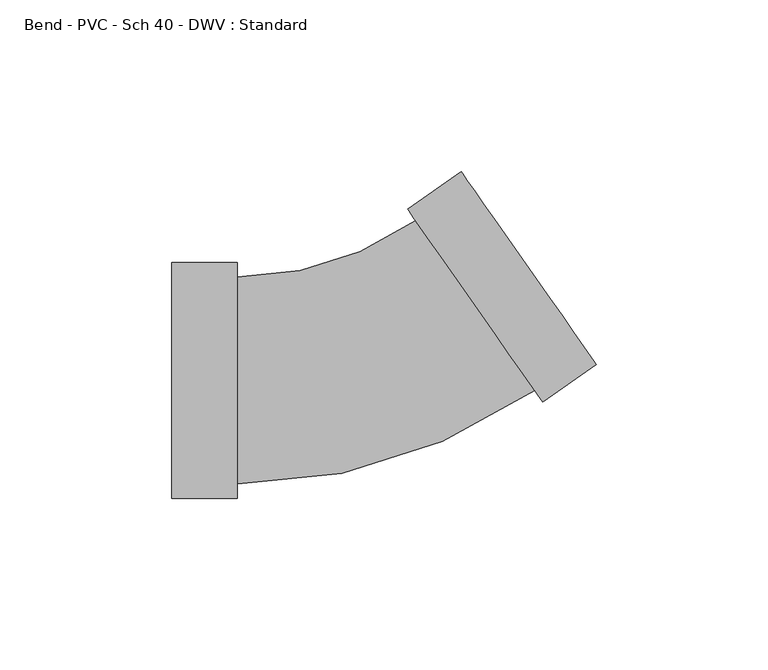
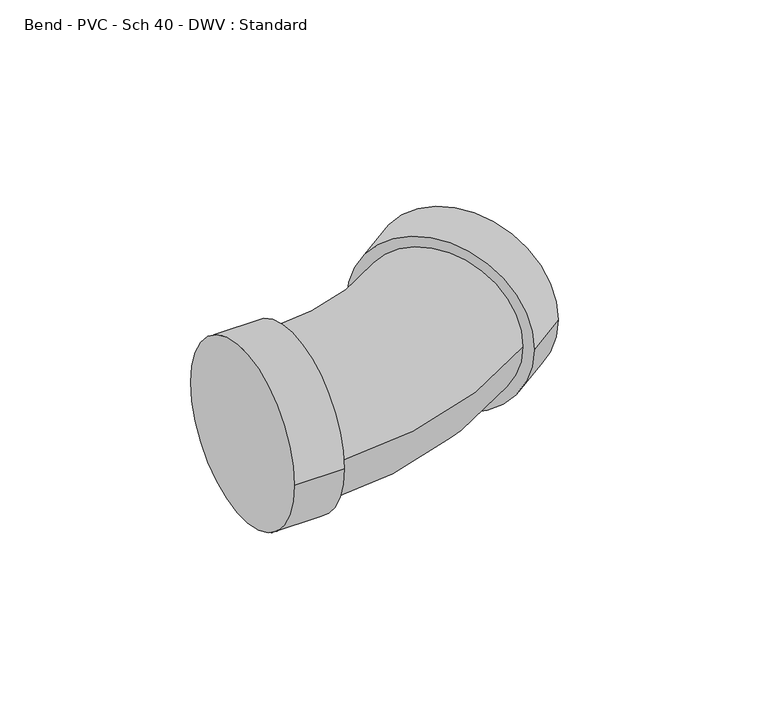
"""IFC4 building model written with IfcOpenShell, lengths in millimetres: pipe fitting geometry, Bend - PVC - Sch 40 - DWV : Standard."""

from ifc_helpers import new_model, si_unit, point, frame, origin, place, context, project, spatial, circle_curve, ellipse_curve, trimmed, source, transform, mapped, element, save
from ifc_brep_helpers import plane_surface, cylinder_surface, revolved_surface, advanced_brep


def bend_pvc_sch_40_dwv_standard_6111f5b4(model_context):
    return source(origin(), model_context, "Body", "AdvancedBrep", [
        advanced_brep(
        [(-57.15, -34.3154, 0.0), (-57.15, 34.3154, 0.0), (-38.1, -34.3154, 0.0), (-38.1, 34.3154, 0.0), (-38.1, -30.1625, 0.0), (-38.1, 30.1625, 0.0), (13.9091936, 46.5609358, 0.0), (48.5101921, -2.8544113, 0.0), (50.8921977, -6.2562678, 0.0), (11.527188, 49.9627923, 0.0), (66.4970442, 4.6703633, 0.0), (27.1320345, 60.8894234, 0.0)],
        [
            (0, 1, circle_curve(frame((-57.15, 0.0, 0.0), z_axis=(-1.0, 0.0, 0.0), x_axis=(0.0, 1.0, 0.0)), 34.3154)),
            (1, 0, circle_curve(frame((-57.15, 0.0, 0.0), z_axis=(-1.0, 0.0, 0.0), x_axis=(0.0, 1.0, 0.0)), 34.3154)),
            (2, 3, circle_curve(frame((-38.1, 0.0, 0.0), z_axis=(1.0, 0.0, 0.0), x_axis=(0.0, 1.0, 0.0)), 34.3154)),
            (3, 2, circle_curve(frame((-38.1, 0.0, 0.0), z_axis=(1.0, 0.0, 0.0), x_axis=(0.0, 1.0, 0.0)), 34.3154)),
            (4, 5, circle_curve(frame((-38.1, 0.0, 0.0), z_axis=(-1.0, 0.0, 0.0), x_axis=(0.0, 1.0, 0.0)), 30.1625)),
            (5, 4, circle_curve(frame((-38.1, 0.0, 0.0), z_axis=(-1.0, 0.0, 0.0), x_axis=(0.0, 1.0, 0.0)), 30.1625)),
            (0, 2),
            (3, 1),
            (6, 5, circle_curve(frame((-38.1, 120.837762, 0.0), z_axis=(0.0, 0.0, -1.0), x_axis=(0.0, -1.0, 0.0)), 90.675262)),
            (4, 7, circle_curve(frame((-38.1, 120.837762, 0.0), z_axis=(0.0, 0.0, 1.0), x_axis=(0.0, -1.0, 0.0)), 151.000262)),
            (7, 6, circle_curve(frame((31.2096929, 21.8532622, 0.0), z_axis=(-0.8191520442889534, -0.5735764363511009, 0.0), x_axis=(-0.5735764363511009, 0.8191520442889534, 0.0)), 30.1625)),
            (6, 7, circle_curve(frame((31.2096929, 21.8532622, 0.0), z_axis=(-0.8191520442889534, -0.5735764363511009, 0.0), x_axis=(-0.5735764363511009, 0.8191520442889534, 0.0)), 30.1625)),
            (8, 9, circle_curve(frame((31.2096929, 21.8532622, 0.0), z_axis=(-0.8191520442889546, -0.5735764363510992, 0.0), x_axis=(-0.5735764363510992, 0.8191520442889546, 0.0)), 34.3154)),
            (9, 8, circle_curve(frame((31.2096929, 21.8532622, 0.0), z_axis=(-0.8191520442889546, -0.5735764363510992, 0.0), x_axis=(-0.5735764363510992, 0.8191520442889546, 0.0)), 34.3154)),
            (10, 11, circle_curve(frame((46.8145393, 32.7798933, 0.0), z_axis=(0.8191520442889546, 0.5735764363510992, 0.0), x_axis=(-0.5735764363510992, 0.8191520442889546, 0.0)), 34.3154)),
            (11, 10, circle_curve(frame((46.8145393, 32.7798933, 0.0), z_axis=(0.8191520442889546, 0.5735764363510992, 0.0), x_axis=(-0.5735764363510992, 0.8191520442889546, 0.0)), 34.3154)),
            (8, 10),
            (11, 9),
        ],
        [
            plane_surface(frame((-57.15, 0.0, 0.0), z_axis=(-1.0, 0.0, 0.0), x_axis=(0.0, 0.0, 1.0))),
            plane_surface(frame((-38.1, 0.0, 0.0), z_axis=(1.0, 0.0, 0.0), x_axis=(0.0, 0.0, 1.0))),
            cylinder_surface(frame((-57.15, 0.0, 0.0), z_axis=(-1.0, 0.0, 0.0), x_axis=(0.0, 1.0, 0.0)), 34.3154),
            revolved_surface(trimmed(ellipse_curve(frame((-38.1, 0.0, 0.0), z_axis=(-1.0, 0.0, 0.0), x_axis=(0.0, 1.0, 0.0)), 30.1625, 30.1625), [point((-38.1, -30.1625, 0.0))], [point((-38.1, 30.1625, 0.0))], True, "CARTESIAN"), (-38.1, 120.837762, 0.0), (0.0, 0.0, 1.0)),
            revolved_surface(trimmed(ellipse_curve(frame((-38.1, 0.0, 0.0), z_axis=(-1.0, 0.0, 0.0), x_axis=(0.0, 1.0, 0.0)), 30.1625, 30.1625), [point((-38.1, 30.1625, 0.0))], [point((-38.1, -30.1625, 0.0))], True, "CARTESIAN"), (-38.1, 120.837762, 0.0), (0.0, 0.0, 1.0)),
            plane_surface(frame((31.2096929, 21.8532622, 0.0), z_axis=(-0.8191520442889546, -0.5735764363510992, 0.0), x_axis=(0.0, 0.0, 1.0))),
            plane_surface(frame((46.8145393, 32.7798933, 0.0), z_axis=(0.8191520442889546, 0.5735764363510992, 0.0), x_axis=(0.0, 0.0, 1.0))),
            cylinder_surface(frame((31.2096929, 21.8532622, 0.0), z_axis=(-0.8191520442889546, -0.5735764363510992, 0.0), x_axis=(-0.5735764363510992, 0.8191520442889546, 0.0)), 34.3154),
        ],
        [
            (0, [[1, 2]]),
            (1, [[3, 4], [5, 6]]),
            (2, [[-1, 7, -4, 8]]),
            (2, [[-2, -8, -3, -7]]),
            (3, [[9, -5, 10, 11]]),
            (4, [[-9, 12, -10, -6]]),
            (5, [[13, 14], [-11, -12]]),
            (6, [[15, 16]]),
            (7, [[-13, 17, -16, 18]]),
            (7, [[-14, -18, -15, -17]]),
        ],
    ),
    ])


if __name__ == "__main__":
    model = new_model("IFC4")
    model_context = context("Model", 3, world=origin())
    ifc_project = project(units=[si_unit("LENGTHUNIT", "METRE", prefix="MILLI")], contexts=[model_context])
    site = spatial("IfcSite", under=ifc_project)
    building = spatial("IfcBuilding", under=site)
    placement = place(None, origin())
    bend_pvc_sch_40_dwv_standard_shape = bend_pvc_sch_40_dwv_standard_6111f5b4(model_context)
    element("IfcPipeFitting", 1, ObjectType="Bend - PVC - Sch 40 - DWV : Standard", at=placement, inside=building, context=model_context, shape_type="MappedRepresentation", body=[
        mapped(bend_pvc_sch_40_dwv_standard_shape, transform((0.0, 0.0, 0.0), x_axis=(1.0, 0.0, 0.0), y_axis=(0.0, 1.0, 0.0), z_axis=(0.0, 0.0, 1.0))),
    ])
    save(model, "model.ifc")
